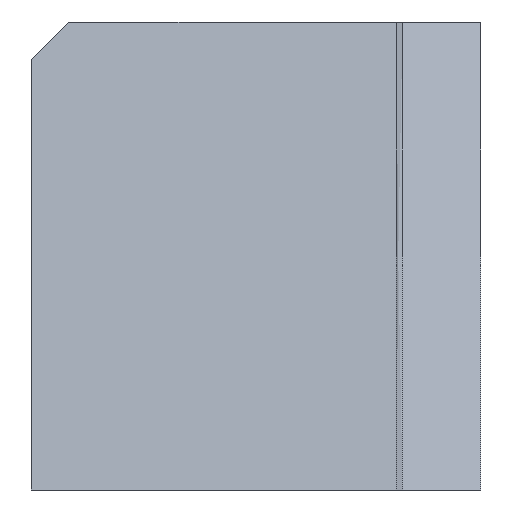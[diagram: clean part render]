
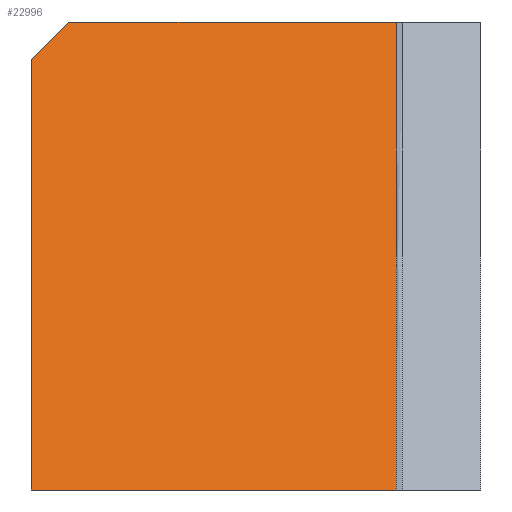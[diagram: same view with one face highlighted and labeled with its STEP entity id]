
A CAD part, left-side view. The second image highlights one B-rep face of the part: STEP entity #22996.
In plain terms, the highlighted planar face has unit normal (-0.943, 0, 0.334).
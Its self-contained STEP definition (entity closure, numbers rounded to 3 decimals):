
#3216=ORIENTED_EDGE('',*,*,#10240,.F.);
#3217=ORIENTED_EDGE('',*,*,#10241,.T.);
#3218=ORIENTED_EDGE('',*,*,#8306,.F.);
#3219=ORIENTED_EDGE('',*,*,#10242,.F.);
#3220=ORIENTED_EDGE('',*,*,#9337,.F.);
#8306=EDGE_CURVE('',#11818,#11819,#14139,.T.);
#9337=EDGE_CURVE('',#12848,#12850,#14833,.T.);
#10240=EDGE_CURVE('',#13752,#12848,#15436,.T.);
#10241=EDGE_CURVE('',#13752,#11819,#15437,.T.);
#10242=EDGE_CURVE('',#12850,#11818,#15438,.T.);
#11818=VERTEX_POINT('',#31119);
#11819=VERTEX_POINT('',#31120);
#12848=VERTEX_POINT('',#34745);
#12850=VERTEX_POINT('',#34748);
#13752=VERTEX_POINT('',#36554);
#14139=LINE('',#31118,#16889);
#14833=LINE('',#34747,#17583);
#15436=LINE('',#36553,#18186);
#15437=LINE('',#36555,#18187);
#15438=LINE('',#36556,#18188);
#16889=VECTOR('',#25492,1000.);
#17583=VECTOR('',#26192,1000.);
#18186=VECTOR('',#27397,1000.);
#18187=VECTOR('',#27398,1000.);
#18188=VECTOR('',#27399,1000.);
#19590=EDGE_LOOP('',(#3216,#3217,#3218,#3219,#3220));
#20888=FACE_BOUND('',#19590,.T.);
#22145=PLANE('',#24543);
#22996=ADVANCED_FACE('',(#20888),#22145,.T.);
#24543=AXIS2_PLACEMENT_3D('',#36552,#27395,#27396);
#25492=DIRECTION('',(0.,1.,0.));
#26192=DIRECTION('',(0.,-1.,0.));
#27395=DIRECTION('',(-0.942,0.,0.334));
#27396=DIRECTION('',(0.,1.,0.));
#27397=DIRECTION('',(0.243,-0.686,0.686));
#27398=DIRECTION('',(-0.334,0.,-0.942));
#27399=DIRECTION('',(-0.334,0.,-0.942));
#31118=CARTESIAN_POINT('',(-8.867,-19.5,-25.));
#31119=CARTESIAN_POINT('',(-8.867,-19.5,-25.));
#31120=CARTESIAN_POINT('',(-8.867,0.,-25.));
#34745=CARTESIAN_POINT('',(0.,-2.,0.));
#34747=CARTESIAN_POINT('',(0.,0.,0.));
#34748=CARTESIAN_POINT('',(0.,-19.5,0.));
#36552=CARTESIAN_POINT('',(0.,-19.5,0.));
#36553=CARTESIAN_POINT('',(1.342,-5.785,3.785));
#36554=CARTESIAN_POINT('',(-0.709,0.,-2.));
#36555=CARTESIAN_POINT('',(0.,0.,0.));
#36556=CARTESIAN_POINT('',(0.,-19.5,0.));
